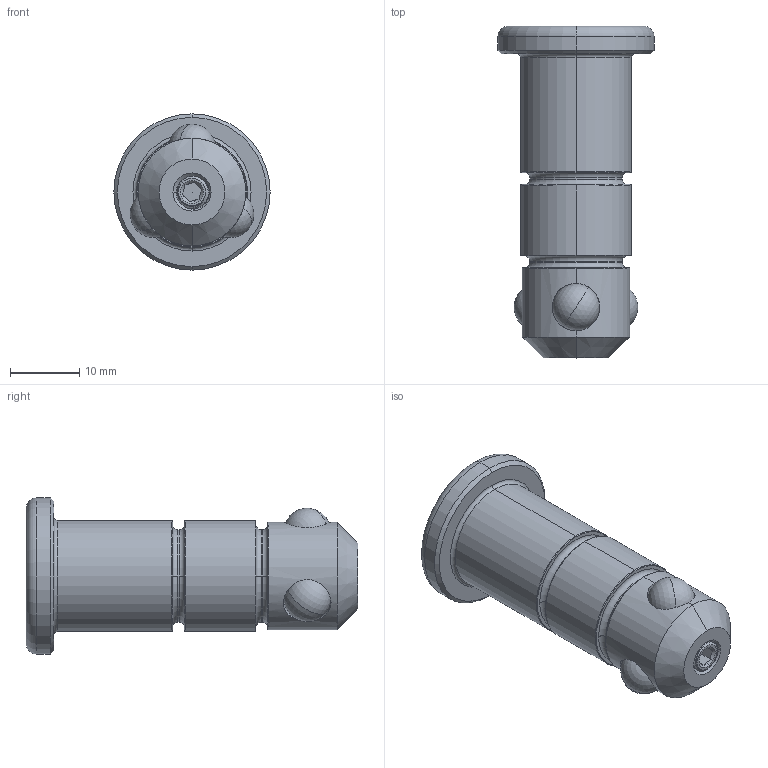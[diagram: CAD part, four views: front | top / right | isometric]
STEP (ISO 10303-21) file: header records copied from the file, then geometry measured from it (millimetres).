
FILE_DESCRIPTION (( 'STEP AP203' ), '1' );
FILE_NAME ('160523.step', '2014-08-11T16:04:21', ( 'User' ), ( '' ), 'SwSTEP 2.0', 'SolidWorks 2014', '' );
FILE_SCHEMA (( 'CONFIG_CONTROL_DESIGN' ));
Length unit declared in the file: millimetre
Products named in the file (5): 160512  Koerper^160523_Produktbild; Kugel 6,747^160523; Gewindestift M5x6 DIN 914^160523_Produktbild; Gewindestift M8x35 DIN 915^160523_Detailliert; 160523
Assembly tree (7 placements, depth 2):
  160523
    160512  Koerper^160523_Produktbild
    Kugel 6,747^160523  x4
    Gewindestift M5x6 DIN 914^160523_Produktbild
    Gewindestift M8x35 DIN 915^160523_Detailliert
Bounding box: 22.5 x 47.8 x 22.5 mm (x, y, z)
Volume: 9480.6 mm3; surface area: 6263.6 mm2
Topology: 7 solids, 7 shells, 153 faces, 401 edges, 260 vertices
Faces by surface type: cylinder 65, plane 27, torus 22, cone 22, bspline 9, sphere 8
Entity records: 10152 total; most frequent: CARTESIAN_POINT 6250, ORIENTED_EDGE 750, DIRECTION 642, EDGE_CURVE 375, AXIS2_PLACEMENT_3D 266, VERTEX_POINT 242, EDGE_LOOP 161, ADVANCED_FACE 147
